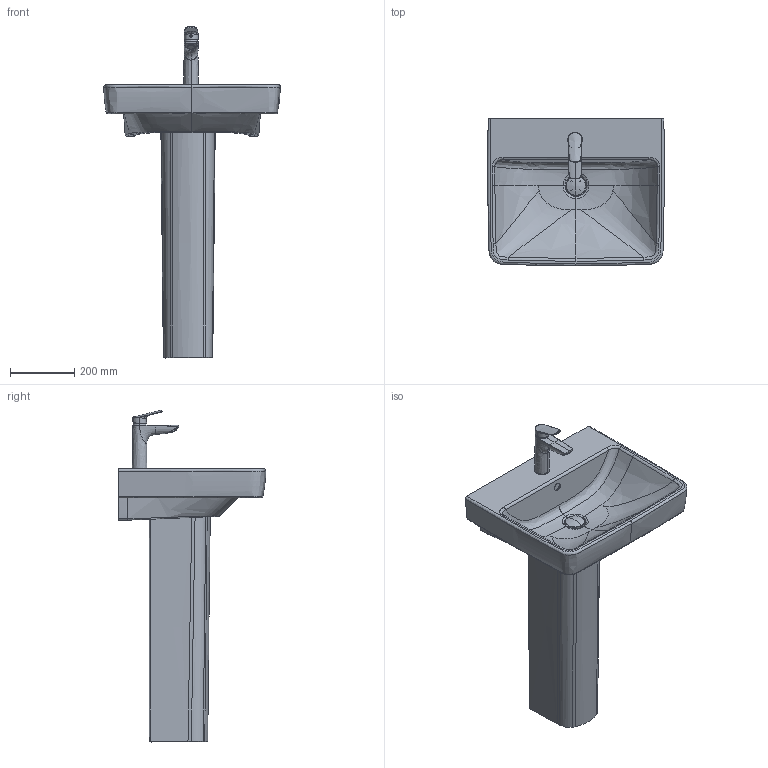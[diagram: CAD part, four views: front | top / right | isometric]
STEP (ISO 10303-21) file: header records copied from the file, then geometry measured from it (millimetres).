
FILE_DESCRIPTION(/* description */ (''),/* implementation_level */ '2;1');
FILE_NAME(/* name */ '237555',/* time_stamp */ '2021-10-12T13:29:35+02:00',/* author */ (''),/* organization */ (''),/* preprocessor_version */ 'ST-DEVELOPER v15',/* originating_system */ '',/* authorisation */ '');
FILE_SCHEMA (('AUTOMOTIVE_DESIGN'));
Length unit declared in the file: millimetre
Products named in the file (1): Document
Bounding box: 549.87 x 460.1 x 1032.97 mm (x, y, z)
Volume: 19879221.5 mm3; surface area: 1741235.7 mm2
Topology: 7 solids, 10 shells, 583 faces, 1393 edges, 829 vertices
Faces by surface type: bspline 497, plane 86
Entity records: 111551 total; most frequent: CARTESIAN_POINT 103103, ORIENTED_EDGE 2754, EDGE_CURVE 1386, B_SPLINE_CURVE_WITH_KNOTS 1078, VERTEX_POINT 829, EDGE_LOOP 611, ADVANCED_FACE 582, FACE_OUTER_BOUND 582
